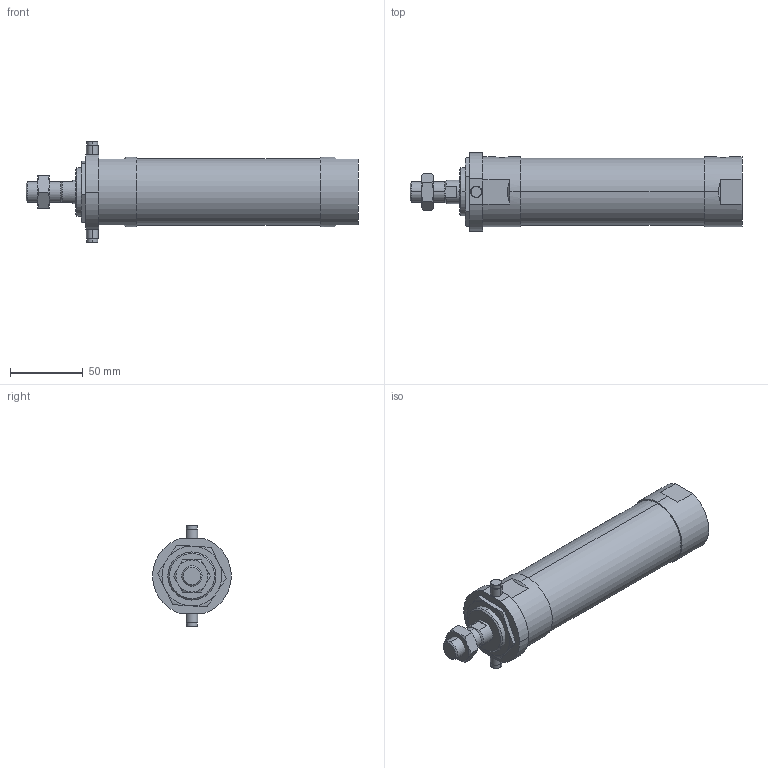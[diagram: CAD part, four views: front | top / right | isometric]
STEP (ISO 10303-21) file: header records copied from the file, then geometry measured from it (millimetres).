
FILE_DESCRIPTION (( 'STEP AP203' ), '1' );
FILE_NAME ('JGND2-40-75-T.STEP', '2016-08-04T03:07:23', ( '' ), ( '' ), 'SwSTEP 2.0', 'SolidWorks 2014', '' );
FILE_SCHEMA (( 'CONFIG_CONTROL_DESIGN' ));
Length unit declared in the file: millimetre
Products named in the file (5): J#2-40-75(P); JGND2-40-75-T; J#2-40-T
Assembly tree (4 placements, depth 2):
  JGND2-40-75-T
    J#2-40-75(P)
    (unnamed)
    (unnamed)
    J#2-40-T
Bounding box: 228 x 53.91 x 70 mm (x, y, z)
Volume: 336776.4 mm3; surface area: 43513.2 mm2
Topology: 4 solids, 4 shells, 116 faces, 269 edges, 165 vertices
Faces by surface type: plane 38, cylinder 33, torus 24, cone 21
Entity records: 4135 total; most frequent: CARTESIAN_POINT 1032, DIRECTION 550, ORIENTED_EDGE 530, EDGE_CURVE 265, AXIS2_PLACEMENT_3D 225, VERTEX_POINT 165, EDGE_LOOP 130, FACE_OUTER_BOUND 116
